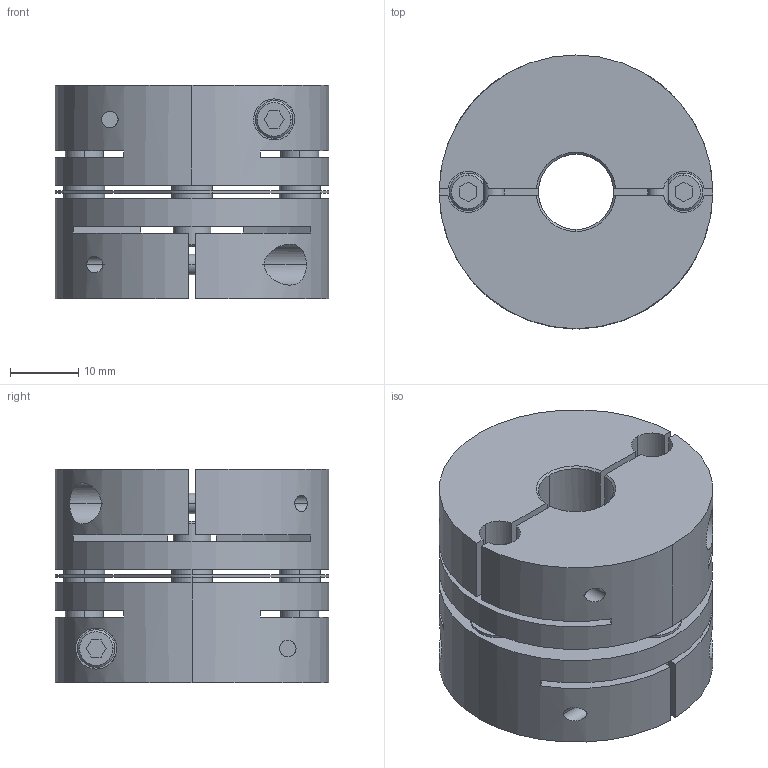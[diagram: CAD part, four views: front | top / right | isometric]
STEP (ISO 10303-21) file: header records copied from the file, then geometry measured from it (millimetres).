
FILE_DESCRIPTION((''),'2;1');
FILE_NAME('LAS-40C-11×18.stp','2014-02-05T08:59:04',(''),(''),'AutoCAD STEP 2000i','AutoCAD 2000i',', , ');
FILE_SCHEMA(('CONFIG_CONTROL_DESIGN'));
Length unit declared in the file: millimetre
Products named in the file (6): LAS-40C-10×15; 忣兜1; LA-4002-D15; LA-4002-D10-1; LA-4002-D10; LAS40-ITA
Assembly tree (5 placements, depth 2):
  LAS-40C-10×15
    忣兜1
    LA-4002-D15
    LA-4002-D10-1
    LA-4002-D10
    LAS40-ITA
Bounding box: 40 x 40 x 31.2 mm (x, y, z)
Volume: 29053.6 mm3; surface area: 15160.5 mm2
Topology: 1 solids, 1 shells, 236 faces, 624 edges, 408 vertices
Faces by surface type: plane 112, cylinder 96, cone 28
Entity records: 8177 total; most frequent: CARTESIAN_POINT 1970, DIRECTION 1304, ORIENTED_EDGE 1248, EDGE_CURVE 624, AXIS2_PLACEMENT_3D 478, VERTEX_POINT 408, VECTOR 348, LINE 348
